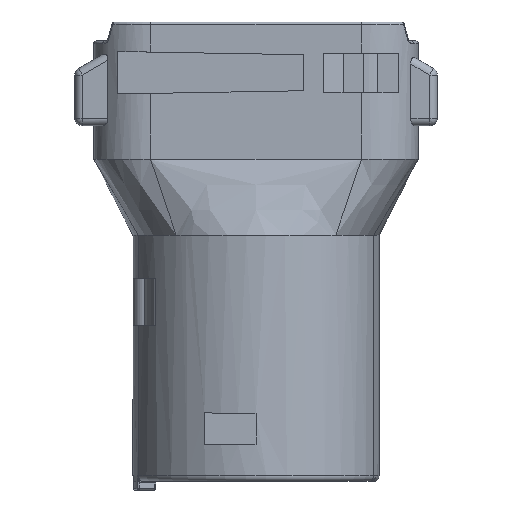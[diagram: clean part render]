
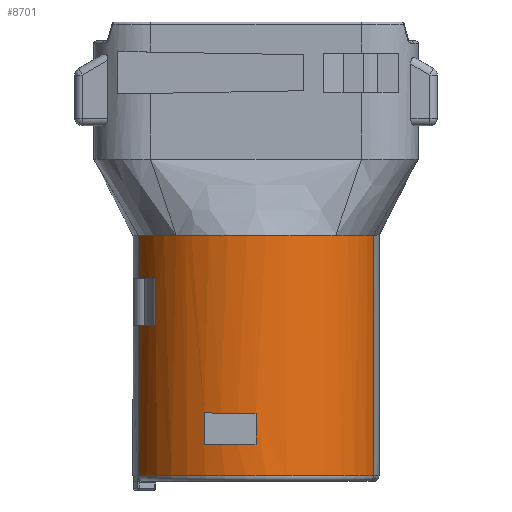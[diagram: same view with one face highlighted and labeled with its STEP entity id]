
A CAD part, left-side view. The second image highlights one B-rep face of the part: STEP entity #8701.
In plain terms, the highlighted cylindrical face has radius 13 mm (diameter 26 mm), a partial arc.
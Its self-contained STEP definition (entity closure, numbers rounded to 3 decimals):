
#349=CARTESIAN_POINT('',(-3.902,12.401,-27.06));
#361=CARTESIAN_POINT('',(-3.904,12.4,-32.06));
#514=CARTESIAN_POINT('',(-3.911,-12.398,
-47.9));
#519=DIRECTION('',(0.,0.,1.));
#520=VECTOR('',#519,25.4);
#521=CARTESIAN_POINT('',(-3.911,-12.398,
-47.9));
#522=LINE('',#521,#520);
#526=DIRECTION('',(0.,0.,1.));
#527=VECTOR('',#526,3.39);
#528=CARTESIAN_POINT('',(-11.8,5.455,-44.648));
#529=LINE('',#528,#527);
#533=CARTESIAN_POINT('',(-11.8,5.455,-44.648));
#534=CARTESIAN_POINT('',(-12.2,4.59,-44.633));
#535=CARTESIAN_POINT('',(-12.793,2.814,-44.602));
#536=CARTESIAN_POINT('',(-13.,0.953,-44.57));
#537=CARTESIAN_POINT('',(-13.,0.,-44.553));
#542=DIRECTION('',(0.,0.,1.));
#543=VECTOR('',#542,3.2);
#544=CARTESIAN_POINT('',(-13.,0.,-44.553));
#545=LINE('',#544,#543);
#549=CARTESIAN_POINT('',(-11.8,5.455,-41.258));
#550=CARTESIAN_POINT('',(-12.2,4.59,-41.273));
#551=CARTESIAN_POINT('',(-12.793,2.814,-41.304));
#552=CARTESIAN_POINT('',(-13.,0.953,-41.336));
#553=CARTESIAN_POINT('',(-13.,0.,-41.353));
#558=CARTESIAN_POINT('',(0.,0.,-47.9));
#559=DIRECTION('',(0.,0.,-1.));
#560=DIRECTION('',(-0.301,-0.954,0.));
#561=AXIS2_PLACEMENT_3D('',#558,#559,#560);
#566=DIRECTION('',(0.,0.,1.));
#567=VECTOR('',#566,15.84);
#568=CARTESIAN_POINT('',(-3.911,12.398,-47.9));
#569=LINE('',#568,#567);
#573=CARTESIAN_POINT('',(0.,0.,-32.06));
#574=DIRECTION('',(0.,0.,1.));
#575=DIRECTION('',(-0.3,0.954,0.));
#576=AXIS2_PLACEMENT_3D('',#573,#574,#575);
#581=DIRECTION('',(0.,0.,1.));
#582=VECTOR('',#581,5.);
#583=CARTESIAN_POINT('',(-7.525,10.603,-32.06));
#584=LINE('',#583,#582);
#588=CARTESIAN_POINT('',(0.,0.,-27.06));
#589=DIRECTION('',(0.,0.,1.));
#590=DIRECTION('',(-0.3,0.954,0.));
#591=AXIS2_PLACEMENT_3D('',#588,#589,#590);
#596=DIRECTION('',(0.,0.,1.));
#597=VECTOR('',#596,4.56);
#598=CARTESIAN_POINT('',(-3.902,12.401,-27.06));
#599=LINE('',#598,#597);
#804=CARTESIAN_POINT('',(0.,0.,-22.5));
#805=DIRECTION('',(0.,0.,1.));
#806=DIRECTION('',(-0.3,0.954,0.));
#807=AXIS2_PLACEMENT_3D('',#804,#805,#806);
#825=CARTESIAN_POINT('',(-3.9,12.401,-22.5));
#5726=CARTESIAN_POINT('',(0.,0.,-22.5));
#5727=DIRECTION('',(0.,0.,1.));
#5728=DIRECTION('',(-0.762,0.648,0.));
#5729=AXIS2_PLACEMENT_3D('',#5726,#5727,#5728);
#5741=CARTESIAN_POINT('',(0.,0.,-22.5));
#5742=DIRECTION('',(0.,0.,1.));
#5743=DIRECTION('',(-0.851,-0.525,0.));
#5744=AXIS2_PLACEMENT_3D('',#5741,#5742,#5743);
#5749=CARTESIAN_POINT('',(0.,0.,-22.5));
#5750=DIRECTION('',(0.,0.,1.));
#5751=DIRECTION('',(-0.851,0.525,0.));
#5752=AXIS2_PLACEMENT_3D('',#5749,#5750,#5751);
#5757=CARTESIAN_POINT('',(0.,0.,-22.5));
#5758=DIRECTION('',(0.,0.,1.));
#5759=DIRECTION('',(-0.762,-0.648,0.));
#5760=AXIS2_PLACEMENT_3D('',#5757,#5758,#5759);
#7219=VERTEX_POINT('',#825);
#7220=CARTESIAN_POINT('',(-9.9,8.426,-22.5));
#7221=VERTEX_POINT('',#7220);
#7222=CARTESIAN_POINT('',(-9.9,-8.426,-22.5));
#7223=CARTESIAN_POINT('',(-3.9,-12.401,-22.5));
#7224=VERTEX_POINT('',#7222);
#7225=VERTEX_POINT('',#7223);
#7249=CARTESIAN_POINT('',(-11.067,6.821,-22.5));
#7250=VERTEX_POINT('',#7249);
#7251=CARTESIAN_POINT('',(-11.067,-6.821,-22.5));
#7252=VERTEX_POINT('',#7251);
#7543=VERTEX_POINT('',#361);
#7548=VERTEX_POINT('',#349);
#7549=CARTESIAN_POINT('',(-7.517,10.606,-32.06));
#7550=VERTEX_POINT('',#7549);
#7551=CARTESIAN_POINT('',(-7.517,10.606,-27.06));
#7552=VERTEX_POINT('',#7551);
#7557=CARTESIAN_POINT('',(-11.8,5.455,-41.258));
#7558=VERTEX_POINT('',#7557);
#7559=CARTESIAN_POINT('',(-11.8,5.455,-44.648));
#7560=VERTEX_POINT('',#7559);
#7561=CARTESIAN_POINT('',(-13.,0.,-44.553));
#7562=VERTEX_POINT('',#7561);
#7563=CARTESIAN_POINT('',(-13.,0.,-41.353));
#7564=VERTEX_POINT('',#7563);
#8211=VERTEX_POINT('',#514);
#8214=CARTESIAN_POINT('',(-3.911,12.398,-47.9));
#8215=VERTEX_POINT('',#8214);
#8664=CARTESIAN_POINT('',(0.,0.,-35.5));
#8665=DIRECTION('',(0.,0.,1.));
#8666=DIRECTION('',(-0.301,0.954,0.));
#8667=AXIS2_PLACEMENT_3D('',#8664,#8665,#8666);
#8668=CYLINDRICAL_SURFACE('',#8667,13.);
#8669=ORIENTED_EDGE('',*,*,#8422,.T.);
#8670=ORIENTED_EDGE('',*,*,#8516,.T.);
#8672=ORIENTED_EDGE('',*,*,#8671,.T.);
#8674=ORIENTED_EDGE('',*,*,#8673,.T.);
#8676=ORIENTED_EDGE('',*,*,#8675,.F.);
#8677=ORIENTED_EDGE('',*,*,#8508,.T.);
#8679=ORIENTED_EDGE('',*,*,#8678,.T.);
#8681=ORIENTED_EDGE('',*,*,#8680,.T.);
#8683=ORIENTED_EDGE('',*,*,#8682,.T.);
#8685=ORIENTED_EDGE('',*,*,#8684,.T.);
#8687=ORIENTED_EDGE('',*,*,#8686,.T.);
#8688=ORIENTED_EDGE('',*,*,#8656,.F.);
#8689=EDGE_LOOP('',(#8669,#8670,#8672,#8674,#8676,#8677,#8679,#8681,#8683,#8685,
#8687,#8688));
#8690=FACE_OUTER_BOUND('',#8689,.F.);
#8692=ORIENTED_EDGE('',*,*,#8691,.F.);
#8694=ORIENTED_EDGE('',*,*,#8693,.T.);
#8696=ORIENTED_EDGE('',*,*,#8695,.T.);
#8698=ORIENTED_EDGE('',*,*,#8697,.F.);
#8699=EDGE_LOOP('',(#8692,#8694,#8696,#8698));
#8700=FACE_BOUND('',#8699,.F.);
#8701=ADVANCED_FACE('',(#8690,#8700),#8668,.T.);
#538=B_SPLINE_CURVE_WITH_KNOTS('',3,(#533,#534,#535,#536,#537),.UNSPECIFIED.,
.F.,.F.,(4,1,4),(0.,0.5,1.),.UNSPECIFIED.);
#554=B_SPLINE_CURVE_WITH_KNOTS('',3,(#549,#550,#551,#552,#553),.UNSPECIFIED.,
.F.,.F.,(4,1,4),(0.,0.5,1.),.UNSPECIFIED.);
#562=CIRCLE('',#561,13.);
#577=CIRCLE('',#576,13.);
#592=CIRCLE('',#591,13.);
#808=CIRCLE('',#807,13.);
#5730=CIRCLE('',#5729,13.);
#5745=CIRCLE('',#5744,13.);
#5753=CIRCLE('',#5752,13.);
#5761=CIRCLE('',#5760,13.);
#8422=EDGE_CURVE('',#8211,#8215,#562,.T.);
#8508=EDGE_CURVE('',#7548,#7219,#599,.T.);
#8516=EDGE_CURVE('',#8215,#7543,#569,.T.);
#8656=EDGE_CURVE('',#8211,#7225,#522,.T.);
#8671=EDGE_CURVE('',#7543,#7550,#577,.T.);
#8673=EDGE_CURVE('',#7550,#7552,#584,.T.);
#8675=EDGE_CURVE('',#7548,#7552,#592,.T.);
#8678=EDGE_CURVE('',#7219,#7221,#808,.T.);
#8680=EDGE_CURVE('',#7221,#7250,#5730,.T.);
#8682=EDGE_CURVE('',#7250,#7252,#5753,.T.);
#8684=EDGE_CURVE('',#7252,#7224,#5745,.T.);
#8686=EDGE_CURVE('',#7224,#7225,#5761,.T.);
#8691=EDGE_CURVE('',#7560,#7558,#529,.T.);
#8693=EDGE_CURVE('',#7560,#7562,#538,.T.);
#8695=EDGE_CURVE('',#7562,#7564,#545,.T.);
#8697=EDGE_CURVE('',#7558,#7564,#554,.T.);
